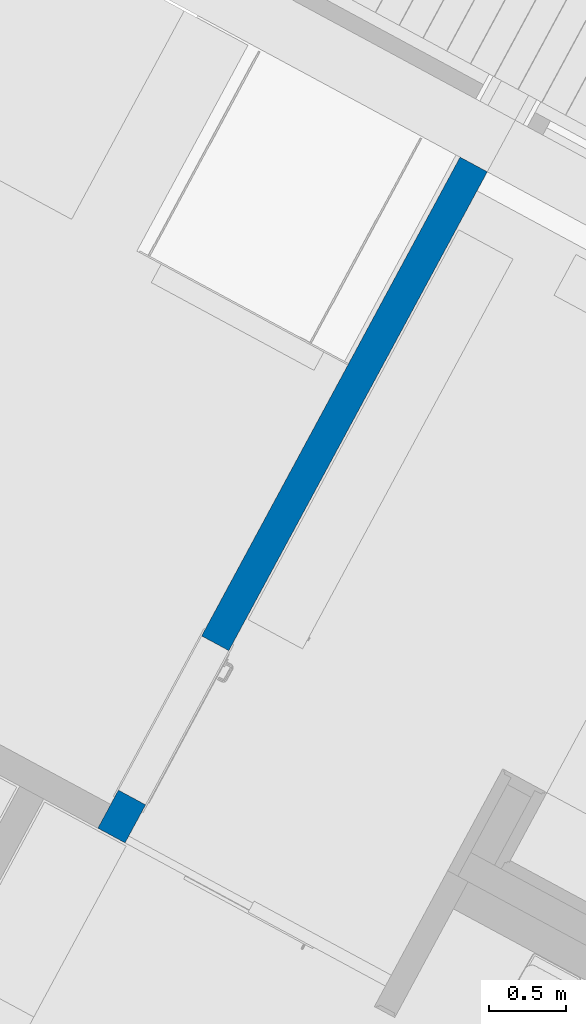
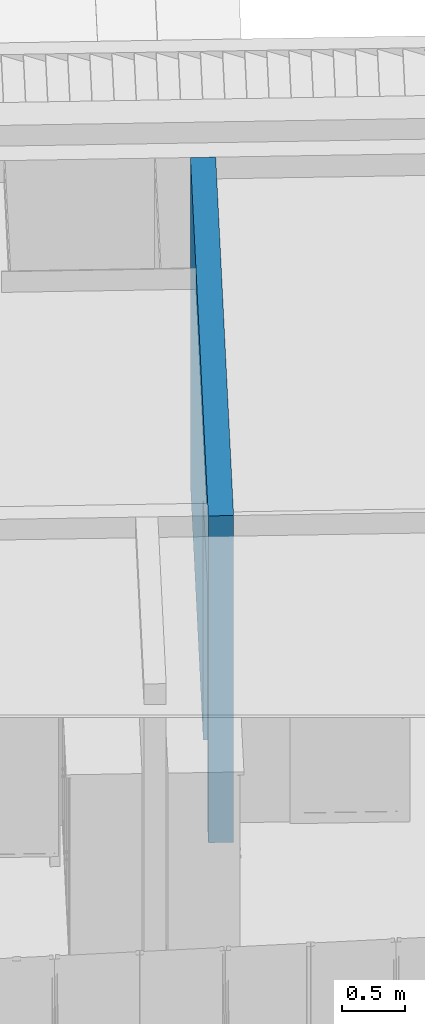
# One storey, part 9 of 48: 1 wall, 1 opening.
"""IFC2X3 building model written with IfcOpenShell, lengths in metres."""

from ifc_helpers import new_model, entity, si_unit, converted_unit, derived_unit, money_unit, direction, frame, origin_with_axes, origin_2d_with_axis, place, context, subcontext, project, spatial, rectangle, extrude, faceted_brep, material, type_object, element, save


model = new_model("IFC2X3")

# Units and contexts
model_context = context("Model", 3, precision=1e-05, world=origin_with_axes(), true_north=direction((0.0, 1.0)))
body_context = subcontext(model_context, "Body", "Model", "MODEL_VIEW")
ifc_project = project(units=[si_unit("LENGTHUNIT", "METRE"), si_unit("AREAUNIT", "SQUARE_METRE"), si_unit("VOLUMEUNIT", "CUBIC_METRE"), converted_unit("PLANEANGLEUNIT", "DEGREE", entity("IfcPlaneAngleMeasure", 0.0174532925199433), si_unit("PLANEANGLEUNIT", "RADIAN"), dimensions=[0, 0, 0, 0, 0, 0, 0]), money_unit("EUR"), converted_unit("TIMEUNIT", "Year", entity("IfcTimeMeasure", 31556926.0), si_unit("TIMEUNIT", "SECOND"), dimensions=[0, 0, 1, 0, 0, 0, 0]), si_unit("MASSUNIT", "GRAM", prefix="KILO"), si_unit("THERMODYNAMICTEMPERATUREUNIT", "DEGREE_CELSIUS"), si_unit("LUMINOUSINTENSITYUNIT", "LUMEN"), si_unit("ENERGYUNIT", "JOULE", prefix="MEGA"), derived_unit("THERMALCONDUCTANCEUNIT", [(si_unit("POWERUNIT", "WATT"), 1), (si_unit("LENGTHUNIT", "METRE"), -1), (si_unit("THERMODYNAMICTEMPERATUREUNIT", "KELVIN"), -1)]), derived_unit("SPECIFICHEATCAPACITYUNIT", [(si_unit("ENERGYUNIT", "JOULE"), 1), (si_unit("MASSUNIT", "GRAM", prefix="KILO"), -1), (si_unit("THERMODYNAMICTEMPERATUREUNIT", "KELVIN"), -1)]), derived_unit("MASSDENSITYUNIT", [(si_unit("MASSUNIT", "GRAM", prefix="KILO"), 1), (si_unit("VOLUMEUNIT", "CUBIC_METRE"), -1)])], contexts=[model_context])

# Site, building, storey
site_placement = place(None, frame((-3.949935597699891, 1.740105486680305, 0.0), z_axis=(0.0, 0.0, 1.0), x_axis=(0.8799804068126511, -0.475009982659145, 0.0)))
site = spatial("IfcSite", under=ifc_project, at=site_placement, Name="Gelände", CompositionType="ELEMENT")
building_placement = place(site_placement, origin_with_axes())
building = spatial("IfcBuilding", under=site, at=building_placement, Name="Gebäude", CompositionType="ELEMENT")
storey_placement = place(building_placement, frame((0.0, 0.0, 4.55), z_axis=(0.0, 0.0, 1.0), x_axis=(1.0, 0.0, 0.0)))
storey = spatial("IfcBuildingStorey", under=building, at=storey_placement, Name="Staffelgeschoss", CompositionType="ELEMENT", Elevation=4.55)

# Wall, opening
ifc_material = material(Name="_SIWH - Beton, Stahlbeton")
wall_type = type_object("IfcWallType", Name="_SIWH - WI | Stb. 20 | 20cm 200", PredefinedType="NOTDEFINED")
wall_placement = place(storey_placement, frame((17.16749336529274, 10.65780061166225, -0.1899999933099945), z_axis=(0.0, 0.0, 1.0), x_axis=(0.0, -1.0, 0.0)))
wall = element("IfcWall", 1, at=wall_placement, inside=storey, type_object=wall_type, material=ifc_material, Name="I-Wand011", context=body_context, shape_type="Brep", body=[
    faceted_brep([(4.659761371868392, 0.1999999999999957, 0.1899999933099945), (4.659761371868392, 0.1999999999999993, 2.324999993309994), (3.524761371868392, 0.1999999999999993, 2.324999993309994), (3.524761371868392, 0.1999999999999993, 0.1899999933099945), (3.524761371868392, 0.2000000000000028, -6.6900058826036e-09), (0.0, 0.1999999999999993, 0.0), (0.0, 0.1999999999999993, 3.153999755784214), (4.939739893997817, 0.1999999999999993, 3.153999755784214), (4.939739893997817, 0.1999999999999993, 0.0), (4.659761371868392, 0.1999999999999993, -6.6900058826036e-09), (4.659761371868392, 0.0, 0.1899999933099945), (4.659761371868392, 0.0, 2.324999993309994), (3.524761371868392, 0.0, 2.324999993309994), (3.524761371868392, 0.0, 0.1899999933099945), (3.524761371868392, 0.0, -6.6900058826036e-09), (0.0, 0.0, 0.0), (0.0, 0.0, 3.153999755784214), (4.939739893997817, 0.0, 3.153999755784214), (4.939739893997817, 0.0, 0.0), (4.659761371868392, 0.0, -6.6900058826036e-09)], [[[0, 1, 2, 3, 4, 5, 6, 7, 8, 9]], [[1, 0, 10, 11]], [[2, 1, 11, 12]], [[3, 2, 12, 13]], [[3, 13, 14, 4]], [[4, 14, 15, 5]], [[6, 5, 15, 16]], [[17, 7, 6, 16]], [[18, 8, 7, 17]], [[19, 9, 8, 18]], [[10, 0, 9, 19]], [[11, 10, 19, 18, 17, 16, 15, 14, 13, 12]]]),
])
opening_placement = place(wall_placement, frame((4.092261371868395, 0.0, 0.1899999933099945), z_axis=(0.0, 0.0, 1.0), x_axis=(1.0, 0.0, 0.0)))
element("IfcOpeningElement", 2, at=opening_placement, cuts=wall, Name="Tür-017", context=body_context, shape_type="SweptSolid", body=[
    extrude(rectangle(XDim=1.135, YDim=2.135, at=origin_2d_with_axis()), frame((0.0, -0.1999999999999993, 1.0675), z_axis=(0.0, 1.0, 0.0), x_axis=(1.0, 0.0, 0.0)), (0.0, 0.0, 1.0), 0.6000000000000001),
])

save(model, "model.ifc")
